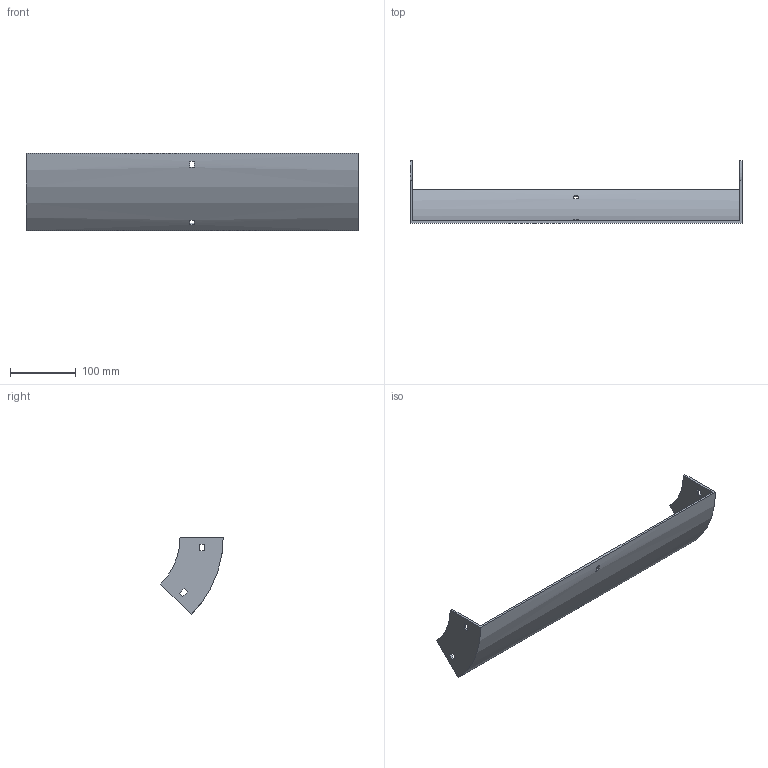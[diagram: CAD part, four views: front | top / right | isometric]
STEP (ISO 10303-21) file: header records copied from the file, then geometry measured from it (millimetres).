
FILE_DESCRIPTION (( 'STEP AP214' ), '1' );
FILE_NAME ('31B1H500.step', '2025-02-21T09:47:23', ( '' ), ( '' ), 'SwSTEP 2.0', 'SolidWorks 2023', '' );
FILE_SCHEMA (( 'AUTOMOTIVE_DESIGN' ));
Length unit declared in the file: millimetre
Products named in the file (1): 31B1H500
Bounding box: 504 x 94.79 x 117.03 mm (x, y, z)
Volume: 270127.6 mm3; surface area: 160008.2 mm2
Topology: 1 solids, 1 shells, 34 faces, 96 edges, 64 vertices
Faces by surface type: plane 30, cylinder 4
Entity records: 1143 total; most frequent: CARTESIAN_POINT 195, ORIENTED_EDGE 192, DIRECTION 182, EDGE_CURVE 96, LINE 80, VECTOR 80, VERTEX_POINT 64, AXIS2_PLACEMENT_3D 51
